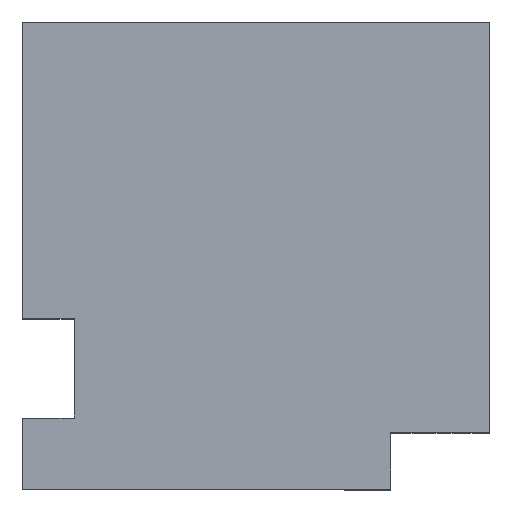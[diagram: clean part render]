
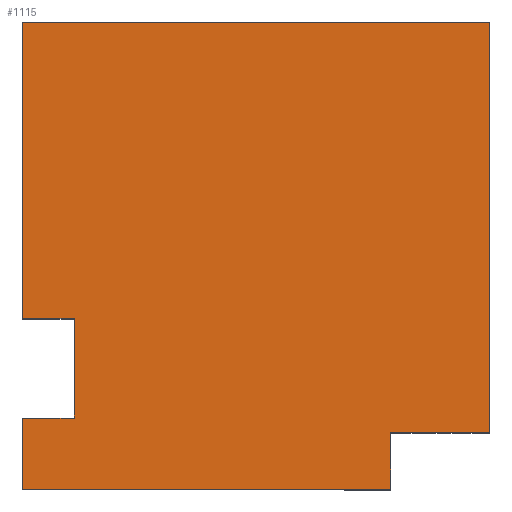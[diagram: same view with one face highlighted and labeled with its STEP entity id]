
A CAD part, top view. The second image highlights one B-rep face of the part: STEP entity #1115.
In plain terms, the highlighted planar face has unit normal (0, 0, 1).
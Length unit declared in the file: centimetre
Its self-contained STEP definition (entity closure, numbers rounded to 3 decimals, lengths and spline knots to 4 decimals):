
#18 = VECTOR ( 'NONE', #1052, 100. ) ;
#50 = EDGE_LOOP ( 'NONE', ( #1411, #881, #128, #723, #1184, #355, #605, #857, #1287, #543 ) ) ;
#65 = VECTOR ( 'NONE', #580, 100. ) ;
#100 = CARTESIAN_POINT ( 'NONE',  ( 0., 152.5657, 1000. ) ) ;
#101 = EDGE_CURVE ( 'NONE', #314, #1394, #1145, .T. ) ;
#102 = LINE ( 'NONE', #1039, #1245 ) ;
#106 = CARTESIAN_POINT ( 'NONE',  ( 0., 0., 1000. ) ) ;
#114 = DIRECTION ( 'NONE',  ( -1., 0., 0. ) ) ;
#121 = VECTOR ( 'NONE', #114, 100. ) ;
#128 = ORIENTED_EDGE ( 'NONE', *, *, #890, .T. ) ;
#139 = VERTEX_POINT ( 'NONE', #1080 ) ;
#154 = EDGE_CURVE ( 'NONE', #261, #784, #1300, .T. ) ;
#189 = EDGE_CURVE ( 'NONE', #784, #139, #629, .T. ) ;
#207 = LINE ( 'NONE', #1044, #943 ) ;
#222 = DIRECTION ( 'NONE',  ( 1., 0., 0. ) ) ;
#253 = CARTESIAN_POINT ( 'NONE',  ( 0., 1000., 1000. ) ) ;
#261 = VERTEX_POINT ( 'NONE', #262 ) ;
#262 = CARTESIAN_POINT ( 'NONE',  ( 0., 1000., 1000. ) ) ;
#289 = VERTEX_POINT ( 'NONE', #830 ) ;
#314 = VERTEX_POINT ( 'NONE', #362 ) ;
#335 = CARTESIAN_POINT ( 'NONE',  ( 788.139, 121.7679, 1000. ) ) ;
#353 = EDGE_CURVE ( 'NONE', #889, #261, #470, .T. ) ;
#355 = ORIENTED_EDGE ( 'NONE', *, *, #822, .T. ) ;
#362 = CARTESIAN_POINT ( 'NONE',  ( 111.0432, 152.5657, 1000. ) ) ;
#390 = CARTESIAN_POINT ( 'NONE',  ( 0., 0., 1000. ) ) ;
#454 = CARTESIAN_POINT ( 'NONE',  ( 0., 365.7883, 1000. ) ) ;
#470 = LINE ( 'NONE', #821, #18 ) ;
#495 = VERTEX_POINT ( 'NONE', #1140 ) ;
#496 = CARTESIAN_POINT ( 'NONE',  ( 1000., 1000., 1000. ) ) ;
#516 = EDGE_CURVE ( 'NONE', #1394, #734, #1163, .T. ) ;
#543 = ORIENTED_EDGE ( 'NONE', *, *, #1101, .T. ) ;
#573 = EDGE_CURVE ( 'NONE', #289, #726, #831, .T. ) ;
#580 = DIRECTION ( 'NONE',  ( 0., -1., 0. ) ) ;
#605 = ORIENTED_EDGE ( 'NONE', *, *, #353, .T. ) ;
#617 = AXIS2_PLACEMENT_3D ( 'NONE', #106, #675, #1029 ) ;
#629 = LINE ( 'NONE', #1085, #669 ) ;
#654 = CARTESIAN_POINT ( 'NONE',  ( 0., 0., 1000. ) ) ;
#665 = PLANE ( 'NONE',  #617 ) ;
#669 = VECTOR ( 'NONE', #991, 100. ) ;
#675 = DIRECTION ( 'NONE',  ( 0., 0., 1. ) ) ;
#723 = ORIENTED_EDGE ( 'NONE', *, *, #573, .T. ) ;
#726 = VERTEX_POINT ( 'NONE', #998 ) ;
#730 = DIRECTION ( 'NONE',  ( 1., 0., 0. ) ) ;
#734 = VERTEX_POINT ( 'NONE', #654 ) ;
#741 = DIRECTION ( 'NONE',  ( 0., -1., 0. ) ) ;
#784 = VERTEX_POINT ( 'NONE', #454 ) ;
#821 = CARTESIAN_POINT ( 'NONE',  ( 0., 1000., 1000. ) ) ;
#822 = EDGE_CURVE ( 'NONE', #495, #889, #102, .T. ) ;
#830 = CARTESIAN_POINT ( 'NONE',  ( 788.139, 0., 1000. ) ) ;
#831 = LINE ( 'NONE', #1157, #964 ) ;
#857 = ORIENTED_EDGE ( 'NONE', *, *, #154, .T. ) ;
#881 = ORIENTED_EDGE ( 'NONE', *, *, #516, .T. ) ;
#889 = VERTEX_POINT ( 'NONE', #496 ) ;
#890 = EDGE_CURVE ( 'NONE', #734, #289, #1403, .T. ) ;
#901 = CARTESIAN_POINT ( 'NONE',  ( 0., 152.5657, 1000. ) ) ;
#927 = LINE ( 'NONE', #335, #1452 ) ;
#943 = VECTOR ( 'NONE', #1013, 100. ) ;
#964 = VECTOR ( 'NONE', #1178, 100. ) ;
#991 = DIRECTION ( 'NONE',  ( 1., 0., 0. ) ) ;
#998 = CARTESIAN_POINT ( 'NONE',  ( 788.139, 121.7679, 1000. ) ) ;
#1013 = DIRECTION ( 'NONE',  ( 0., -1., 0. ) ) ;
#1029 = DIRECTION ( 'NONE',  ( 1., 0., 0. ) ) ;
#1036 = FACE_OUTER_BOUND ( 'NONE', #50, .T. ) ;
#1039 = CARTESIAN_POINT ( 'NONE',  ( 1000., 1000., 1000. ) ) ;
#1044 = CARTESIAN_POINT ( 'NONE',  ( 111.0432, 152.5657, 1000. ) ) ;
#1052 = DIRECTION ( 'NONE',  ( -1., 0., 0. ) ) ;
#1080 = CARTESIAN_POINT ( 'NONE',  ( 111.0432, 365.7883, 1000. ) ) ;
#1085 = CARTESIAN_POINT ( 'NONE',  ( 0., 365.7883, 1000. ) ) ;
#1101 = EDGE_CURVE ( 'NONE', #139, #314, #207, .T. ) ;
#1115 = ADVANCED_FACE ( 'NONE', ( #1036 ), #665, .T. ) ;
#1123 = VECTOR ( 'NONE', #741, 100. ) ;
#1140 = CARTESIAN_POINT ( 'NONE',  ( 1000., 121.7679, 1000. ) ) ;
#1145 = LINE ( 'NONE', #100, #121 ) ;
#1157 = CARTESIAN_POINT ( 'NONE',  ( 788.139, 0., 1000. ) ) ;
#1163 = LINE ( 'NONE', #253, #65 ) ;
#1164 = EDGE_CURVE ( 'NONE', #726, #495, #927, .T. ) ;
#1178 = DIRECTION ( 'NONE',  ( 0., 1., 0. ) ) ;
#1184 = ORIENTED_EDGE ( 'NONE', *, *, #1164, .T. ) ;
#1245 = VECTOR ( 'NONE', #1369, 100. ) ;
#1287 = ORIENTED_EDGE ( 'NONE', *, *, #189, .T. ) ;
#1300 = LINE ( 'NONE', #1422, #1123 ) ;
#1369 = DIRECTION ( 'NONE',  ( 0., 1., 0. ) ) ;
#1394 = VERTEX_POINT ( 'NONE', #901 ) ;
#1403 = LINE ( 'NONE', #390, #1483 ) ;
#1411 = ORIENTED_EDGE ( 'NONE', *, *, #101, .T. ) ;
#1422 = CARTESIAN_POINT ( 'NONE',  ( 0., 1000., 1000. ) ) ;
#1452 = VECTOR ( 'NONE', #222, 100. ) ;
#1483 = VECTOR ( 'NONE', #730, 100. ) ;
